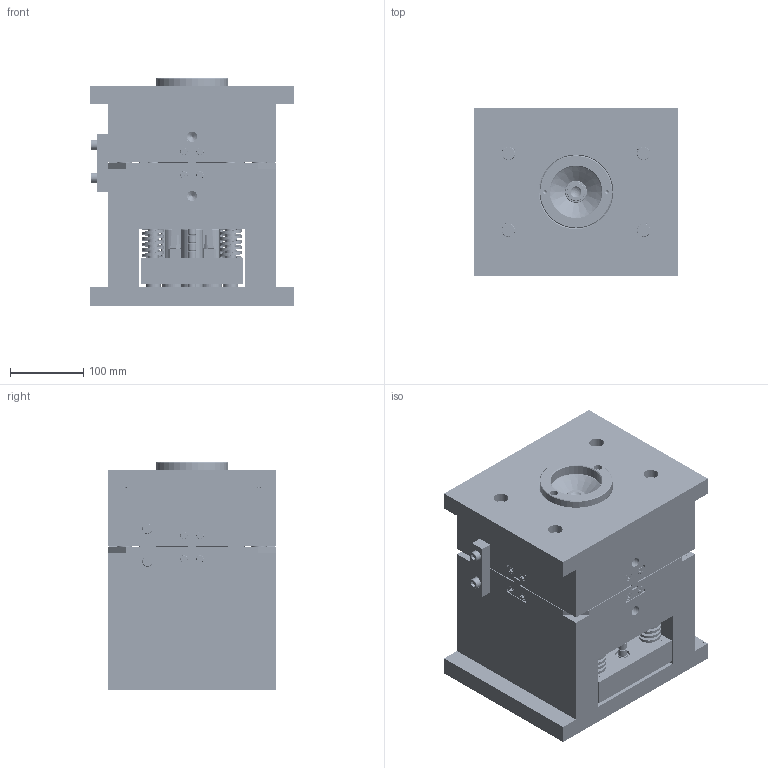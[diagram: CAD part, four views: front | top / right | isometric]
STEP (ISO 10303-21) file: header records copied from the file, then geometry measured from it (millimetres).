
FILE_DESCRIPTION(/* description */ (''),/* implementation_level */ '2;1');
FILE_NAME(/* name */ '12.stp',/* time_stamp */ '2017-06-14T10:55:32+08:00',/* author */ (''),/* organization */ (''),/* preprocessor_version */ 'ST-DEVELOPER v16',/* originating_system */ 'SIEMENS PLM Software NX 10.0',/* authorisation */ '');
FILE_SCHEMA (('CONFIG_CONTROL_DESIGN'));
Products named in the file (1): XS2017-012
Bounding box: 280 x 230 x 311 mm (x, y, z)
Volume: 14747684.6 mm3; surface area: 1968086.7 mm2
Topology: 146 solids, 146 shells, 5755 faces, 14486 edges, 9472 vertices
Faces by surface type: plane 3383, cylinder 1277, cone 480, extrusion 282, bspline 197, torus 121, sphere 15
Full cylindrical faces by diameter (mm): 4.2 x6, 5 x63, 6 x70, 6.5 x16, 6.7 x2, 6.8 x17, 7 x16, 8 x77, 8.5 x11, 9 x32, 10 x51, 10.5 x24, 10.98 x2, 11 x10, 12 x48, 13 x18, 14 x35, 14.6 x4, 15 x8, 15.1 x4, 16 x4, 17 x10, 18 x10, 19.6 x4, 20 x54, 21 x4, 23 x4, 25 x7, 26 x6, 29.6 x4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
Entity records: 190044 total; most frequent: CARTESIAN_POINT 59612, ORIENTED_EDGE 25470, DIRECTION 25421, EDGE_CURVE 12735, VERTEX_POINT 9018, VECTOR 8607, AXIS2_PLACEMENT_3D 8407, LINE 8325
